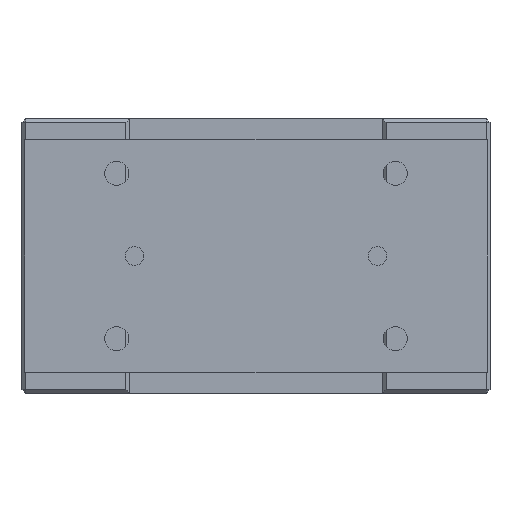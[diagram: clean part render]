
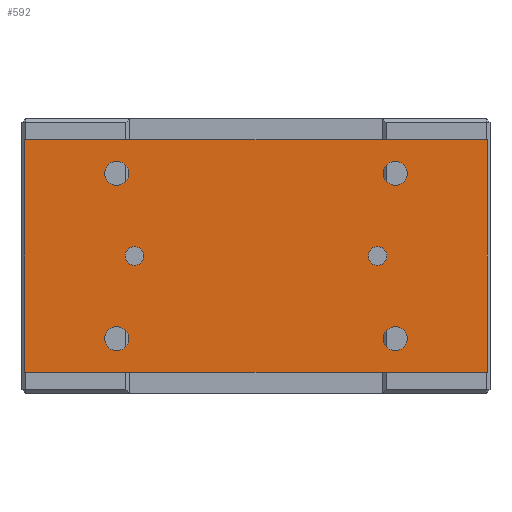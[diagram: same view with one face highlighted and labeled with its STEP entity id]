
A CAD part, left-side view. The second image highlights one B-rep face of the part: STEP entity #592.
In plain terms, the highlighted planar face has unit normal (-1, 0, 0).
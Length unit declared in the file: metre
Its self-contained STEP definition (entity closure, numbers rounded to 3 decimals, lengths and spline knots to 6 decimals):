
#592 = ADVANCED_FACE( '', ( #1336, #1337, #1338, #1339, #1340, #1341, #1342 ), #1343, .T. );
#1336 = FACE_BOUND( '', #2230, .T. );
#1337 = FACE_BOUND( '', #2231, .T. );
#1338 = FACE_BOUND( '', #2232, .T. );
#1339 = FACE_BOUND( '', #2233, .T. );
#1340 = FACE_BOUND( '', #2234, .T. );
#1341 = FACE_BOUND( '', #2235, .T. );
#1342 = FACE_OUTER_BOUND( '', #2236, .T. );
#1343 = PLANE( '', #2237 );
#2230 = EDGE_LOOP( '', ( #3713 ) );
#2231 = EDGE_LOOP( '', ( #3714 ) );
#2232 = EDGE_LOOP( '', ( #3715 ) );
#2233 = EDGE_LOOP( '', ( #3716 ) );
#2234 = EDGE_LOOP( '', ( #3717 ) );
#2235 = EDGE_LOOP( '', ( #3718 ) );
#2236 = EDGE_LOOP( '', ( #3719, #3720, #3721, #3722 ) );
#2237 = AXIS2_PLACEMENT_3D( '', #3723, #3724, #3725 );
#3713 = ORIENTED_EDGE( '', *, *, #4487, .F. );
#3714 = ORIENTED_EDGE( '', *, *, #4672, .T. );
#3715 = ORIENTED_EDGE( '', *, *, #4806, .F. );
#3716 = ORIENTED_EDGE( '', *, *, #4691, .F. );
#3717 = ORIENTED_EDGE( '', *, *, #4560, .F. );
#3718 = ORIENTED_EDGE( '', *, *, #4568, .F. );
#3719 = ORIENTED_EDGE( '', *, *, #4436, .T. );
#3720 = ORIENTED_EDGE( '', *, *, #4778, .T. );
#3721 = ORIENTED_EDGE( '', *, *, #4685, .T. );
#3722 = ORIENTED_EDGE( '', *, *, #4807, .T. );
#3723 = CARTESIAN_POINT( '', ( -0.143, -0.1245, -0.0115 ) );
#3724 = DIRECTION( '', ( -1., 0., 0. ) );
#3725 = DIRECTION( '', ( 0., 0., 1. ) );
#4436 = EDGE_CURVE( '', #5168, #5166, #5169, .T. );
#4487 = EDGE_CURVE( '', #5245, #5245, #5246, .T. );
#4560 = EDGE_CURVE( '', #5362, #5362, #5363, .T. );
#4568 = EDGE_CURVE( '', #5376, #5376, #5377, .T. );
#4672 = EDGE_CURVE( '', #5522, #5522, #5523, .T. );
#4685 = EDGE_CURVE( '', #5540, #5538, #5541, .T. );
#4691 = EDGE_CURVE( '', #5548, #5548, #5549, .T. );
#4778 = EDGE_CURVE( '', #5166, #5540, #5678, .T. );
#4806 = EDGE_CURVE( '', #5710, #5710, #5711, .T. );
#4807 = EDGE_CURVE( '', #5538, #5168, #5712, .T. );
#5166 = VERTEX_POINT( '', #6234 );
#5168 = VERTEX_POINT( '', #6237 );
#5169 = LINE( '', #6238, #6239 );
#5245 = VERTEX_POINT( '', #6341 );
#5246 = CIRCLE( '', #6342, 0.005 );
#5362 = VERTEX_POINT( '', #6519 );
#5363 = CIRCLE( '', #6520, 0.0065 );
#5376 = VERTEX_POINT( '', #6537 );
#5377 = CIRCLE( '', #6538, 0.0065 );
#5522 = VERTEX_POINT( '', #6786 );
#5523 = CIRCLE( '', #6787, 0.005 );
#5538 = VERTEX_POINT( '', #6807 );
#5540 = VERTEX_POINT( '', #6810 );
#5541 = LINE( '', #6811, #6812 );
#5548 = VERTEX_POINT( '', #6820 );
#5549 = CIRCLE( '', #6821, 0.0065 );
#5678 = LINE( '', #7053, #7054 );
#5710 = VERTEX_POINT( '', #7100 );
#5711 = CIRCLE( '', #7101, 0.0065 );
#5712 = LINE( '', #7102, #7103 );
#6234 = CARTESIAN_POINT( '', ( -0.143, -0.1245, -0.0115 ) );
#6237 = CARTESIAN_POINT( '', ( -0.143, -0.1245, -0.1365 ) );
#6238 = CARTESIAN_POINT( '', ( -0.143, -0.1245, -0.1365 ) );
#6239 = VECTOR( '', #7473, 1. );
#6341 = CARTESIAN_POINT( '', ( -0.143, -0.0705, -0.074 ) );
#6342 = AXIS2_PLACEMENT_3D( '', #7527, #7528, #7529 );
#6519 = CARTESIAN_POINT( '', ( -0.143, -0.075, -0.023 ) );
#6520 = AXIS2_PLACEMENT_3D( '', #7621, #7622, #7623 );
#6537 = CARTESIAN_POINT( '', ( -0.143, 0.075, -0.023 ) );
#6538 = AXIS2_PLACEMENT_3D( '', #7631, #7632, #7633 );
#6786 = CARTESIAN_POINT( '', ( -0.143, 0.0705, -0.074 ) );
#6787 = AXIS2_PLACEMENT_3D( '', #7749, #7750, #7751 );
#6807 = CARTESIAN_POINT( '', ( -0.143, 0.1245, -0.1365 ) );
#6810 = CARTESIAN_POINT( '', ( -0.143, 0.1245, -0.0115 ) );
#6811 = CARTESIAN_POINT( '', ( -0.143, 0.1245, -0.0115 ) );
#6812 = VECTOR( '', #7761, 1. );
#6820 = CARTESIAN_POINT( '', ( -0.143, 0.075, -0.112 ) );
#6821 = AXIS2_PLACEMENT_3D( '', #7766, #7767, #7768 );
#7053 = CARTESIAN_POINT( '', ( -0.143, -0.1245, -0.0115 ) );
#7054 = VECTOR( '', #7851, 1. );
#7100 = CARTESIAN_POINT( '', ( -0.143, -0.075, -0.112 ) );
#7101 = AXIS2_PLACEMENT_3D( '', #7866, #7867, #7868 );
#7102 = CARTESIAN_POINT( '', ( -0.143, 0.1245, -0.1365 ) );
#7103 = VECTOR( '', #7869, 1. );
#7473 = DIRECTION( '', ( 0., 0., 1. ) );
#7527 = CARTESIAN_POINT( '', ( -0.143, -0.0655, -0.074 ) );
#7528 = DIRECTION( '', ( -1., 0., 0. ) );
#7529 = DIRECTION( '', ( 0., -1., 0. ) );
#7621 = CARTESIAN_POINT( '', ( -0.143, -0.075, -0.0295 ) );
#7622 = DIRECTION( '', ( -1., 0., 0. ) );
#7623 = DIRECTION( '', ( 0., 0., 1. ) );
#7631 = CARTESIAN_POINT( '', ( -0.143, 0.075, -0.0295 ) );
#7632 = DIRECTION( '', ( -1., 0., 0. ) );
#7633 = DIRECTION( '', ( 0., 0., 1. ) );
#7749 = CARTESIAN_POINT( '', ( -0.143, 0.0655, -0.074 ) );
#7750 = DIRECTION( '', ( 1., 0., 0. ) );
#7751 = DIRECTION( '', ( 0., 1., 0. ) );
#7761 = DIRECTION( '', ( 0., 0., -1. ) );
#7766 = CARTESIAN_POINT( '', ( -0.143, 0.075, -0.1185 ) );
#7767 = DIRECTION( '', ( -1., 0., 0. ) );
#7768 = DIRECTION( '', ( 0., 0., 1. ) );
#7851 = DIRECTION( '', ( 0., 1., 0. ) );
#7866 = CARTESIAN_POINT( '', ( -0.143, -0.075, -0.1185 ) );
#7867 = DIRECTION( '', ( -1., 0., 0. ) );
#7868 = DIRECTION( '', ( 0., 0., 1. ) );
#7869 = DIRECTION( '', ( 0., -1., 0. ) );
